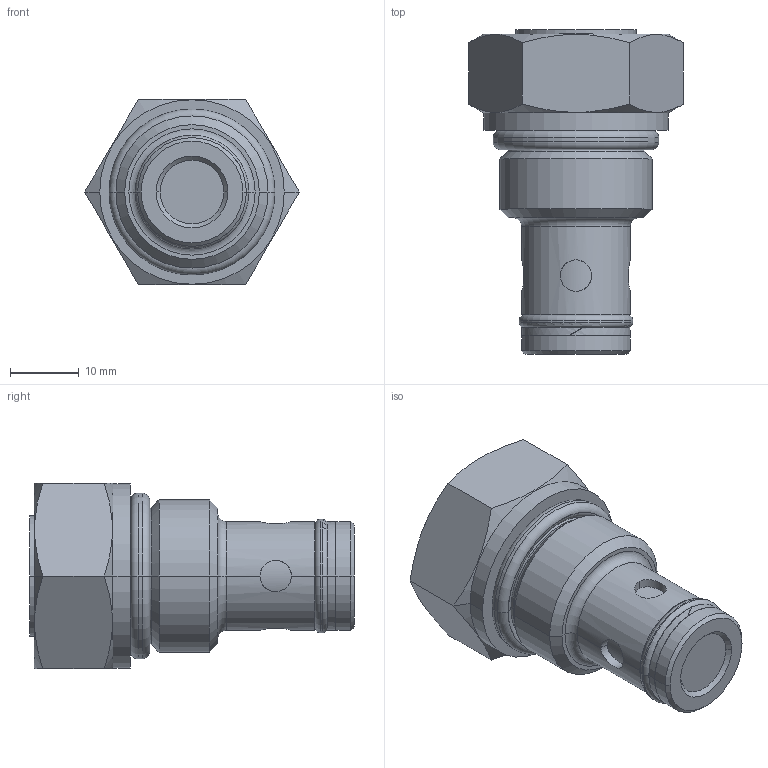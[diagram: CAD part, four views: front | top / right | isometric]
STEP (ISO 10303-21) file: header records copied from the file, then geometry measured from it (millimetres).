
FILE_DESCRIPTION((''),'2;1');
FILE_NAME('CVFB-10-_-_-OUT','2015-12-02T',('torrese'),(''),'PRO/ENGINEER BY PARAMETRIC TECHNOLOGY CORPORATION, 2015070','PRO/ENGINEER BY PARAMETRIC TECHNOLOGY CORPORATION, 2015070','');
FILE_SCHEMA(('CONFIG_CONTROL_DESIGN','GEOMETRIC_VALIDATION_PROPERTIES_MIM'));
Length unit declared in the file: inch
Products named in the file (1): CVFB-10-_-_-OUT
Bounding box: 31.15 x 47.12 x 26.97 mm (x, y, z)
Volume: 17272.4 mm3; surface area: 5050.1 mm2
Topology: 1 solids, 1 shells, 91 faces, 196 edges, 118 vertices
Faces by surface type: cylinder 37, plane 26, cone 14, torus 14
Entity records: 6157 total; most frequent: CARTESIAN_POINT 3065, DIRECTION 425, ORIENTED_EDGE 392, PRESENTATION_STYLE_ASSIGNMENT 254, STYLED_ITEM 199, CURVE_STYLE 196, EDGE_CURVE 196, AXIS2_PLACEMENT_3D 178
